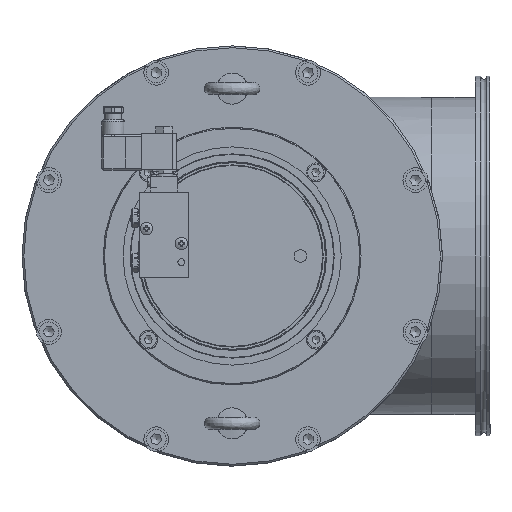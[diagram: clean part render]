
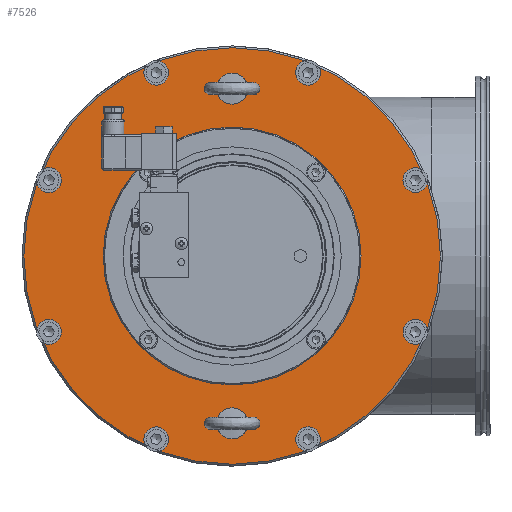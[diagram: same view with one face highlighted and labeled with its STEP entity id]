
A CAD part, left-side view. The second image highlights one B-rep face of the part: STEP entity #7526.
In plain terms, the highlighted planar face has unit normal (-1, 0, 0) as drawn and (0, 0, -1) by its records, which use the part's own axes.
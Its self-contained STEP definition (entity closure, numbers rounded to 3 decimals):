
#6881=PLANE('',#15669);
#7526=ADVANCED_FACE('BCT_REF_50658',(#8370,#8371,#8372,#8373,#8374,#8375,
#8376,#8377,#8378,#8379,#8380,#8381,#8382,#8383,#8384,#8385),#6881,.F.);
#8370=FACE_BOUND('',#9067,.T.);
#8371=FACE_BOUND('',#9068,.T.);
#8372=FACE_BOUND('',#9069,.T.);
#8373=FACE_BOUND('',#9070,.T.);
#8374=FACE_BOUND('',#9071,.T.);
#8375=FACE_BOUND('',#9072,.T.);
#8376=FACE_BOUND('',#9073,.T.);
#8377=FACE_BOUND('',#9074,.T.);
#8378=FACE_BOUND('',#9075,.T.);
#8379=FACE_BOUND('',#9076,.T.);
#8380=FACE_BOUND('',#9077,.T.);
#8381=FACE_BOUND('',#9078,.T.);
#8382=FACE_BOUND('',#9079,.T.);
#8383=FACE_BOUND('',#9080,.T.);
#8384=FACE_BOUND('',#9081,.T.);
#8385=FACE_BOUND('',#9082,.T.);
#9067=EDGE_LOOP('',(#10228));
#9068=EDGE_LOOP('',(#10229));
#9069=EDGE_LOOP('',(#10230));
#9070=EDGE_LOOP('',(#10231));
#9071=EDGE_LOOP('',(#10232));
#9072=EDGE_LOOP('',(#10233));
#9073=EDGE_LOOP('',(#10234));
#9074=EDGE_LOOP('',(#10235));
#9075=EDGE_LOOP('',(#10236));
#9076=EDGE_LOOP('',(#10237));
#9077=EDGE_LOOP('',(#10238));
#9078=EDGE_LOOP('',(#10239));
#9079=EDGE_LOOP('',(#10240));
#9080=EDGE_LOOP('',(#10241));
#9081=EDGE_LOOP('',(#10242));
#9082=EDGE_LOOP('',(#10243));
#10228=ORIENTED_EDGE('',*,*,#13754,.T.);
#10229=ORIENTED_EDGE('',*,*,#13755,.T.);
#10230=ORIENTED_EDGE('',*,*,#13756,.T.);
#10231=ORIENTED_EDGE('',*,*,#13757,.T.);
#10232=ORIENTED_EDGE('',*,*,#13758,.T.);
#10233=ORIENTED_EDGE('',*,*,#13759,.T.);
#10234=ORIENTED_EDGE('',*,*,#13760,.T.);
#10235=ORIENTED_EDGE('',*,*,#13761,.T.);
#10236=ORIENTED_EDGE('',*,*,#13762,.T.);
#10237=ORIENTED_EDGE('',*,*,#13763,.T.);
#10238=ORIENTED_EDGE('',*,*,#13764,.T.);
#10239=ORIENTED_EDGE('',*,*,#13765,.T.);
#10240=ORIENTED_EDGE('',*,*,#13766,.T.);
#10241=ORIENTED_EDGE('',*,*,#13767,.T.);
#10242=ORIENTED_EDGE('',*,*,#13768,.T.);
#10243=ORIENTED_EDGE('',*,*,#13769,.T.);
#12744=VERTEX_POINT('',#21227);
#12745=VERTEX_POINT('',#21229);
#12746=VERTEX_POINT('',#21231);
#12747=VERTEX_POINT('',#21233);
#12748=VERTEX_POINT('',#21235);
#12749=VERTEX_POINT('',#21237);
#12750=VERTEX_POINT('',#21239);
#12751=VERTEX_POINT('',#21241);
#12752=VERTEX_POINT('',#21243);
#12753=VERTEX_POINT('',#21245);
#12754=VERTEX_POINT('',#21247);
#12755=VERTEX_POINT('',#21249);
#12756=VERTEX_POINT('',#21251);
#12757=VERTEX_POINT('',#21253);
#12758=VERTEX_POINT('',#21255);
#12759=VERTEX_POINT('',#21257);
#13754=EDGE_CURVE('BCT_REF_75933',#12744,#12744,#15048,.T.);
#13755=EDGE_CURVE('BCT_REF_50675',#12745,#12745,#15049,.T.);
#13756=EDGE_CURVE('BCT_REF_50672',#12746,#12746,#15050,.T.);
#13757=EDGE_CURVE('BCT_REF_50642',#12747,#12747,#15051,.T.);
#13758=EDGE_CURVE('',#12748,#12748,#15052,.T.);
#13759=EDGE_CURVE('BCT_REF_50687',#12749,#12749,#15053,.T.);
#13760=EDGE_CURVE('',#12750,#12750,#15054,.T.);
#13761=EDGE_CURVE('',#12751,#12751,#15055,.T.);
#13762=EDGE_CURVE('',#12752,#12752,#15056,.T.);
#13763=EDGE_CURVE('',#12753,#12753,#15057,.T.);
#13764=EDGE_CURVE('',#12754,#12754,#15058,.T.);
#13765=EDGE_CURVE('',#12755,#12755,#15059,.T.);
#13766=EDGE_CURVE('',#12756,#12756,#15060,.T.);
#13767=EDGE_CURVE('',#12757,#12757,#15061,.T.);
#13768=EDGE_CURVE('',#12758,#12758,#15062,.T.);
#13769=EDGE_CURVE('',#12759,#12759,#15063,.T.);
#15048=CIRCLE('',#15653,168.);
#15049=CIRCLE('',#15654,88.75);
#15050=CIRCLE('',#15655,4.25);
#15051=CIRCLE('',#15656,4.25);
#15052=CIRCLE('',#15657,4.25);
#15053=CIRCLE('',#15658,4.25);
#15054=CIRCLE('',#15659,4.25);
#15055=CIRCLE('',#15660,4.25);
#15056=CIRCLE('',#15661,5.5);
#15057=CIRCLE('',#15662,5.5);
#15058=CIRCLE('',#15663,5.5);
#15059=CIRCLE('',#15664,5.5);
#15060=CIRCLE('',#15665,5.5);
#15061=CIRCLE('',#15666,5.5);
#15062=CIRCLE('',#15667,5.5);
#15063=CIRCLE('',#15668,5.5);
#15653=AXIS2_PLACEMENT_3D('',#21226,#17129,#17130);
#15654=AXIS2_PLACEMENT_3D('',#21228,#17131,#17132);
#15655=AXIS2_PLACEMENT_3D('',#21230,#17133,#17134);
#15656=AXIS2_PLACEMENT_3D('',#21232,#17135,#17136);
#15657=AXIS2_PLACEMENT_3D('',#21234,#17137,#17138);
#15658=AXIS2_PLACEMENT_3D('',#21236,#17139,#17140);
#15659=AXIS2_PLACEMENT_3D('',#21238,#17141,#17142);
#15660=AXIS2_PLACEMENT_3D('',#21240,#17143,#17144);
#15661=AXIS2_PLACEMENT_3D('',#21242,#17145,#17146);
#15662=AXIS2_PLACEMENT_3D('',#21244,#17147,#17148);
#15663=AXIS2_PLACEMENT_3D('',#21246,#17149,#17150);
#15664=AXIS2_PLACEMENT_3D('',#21248,#17151,#17152);
#15665=AXIS2_PLACEMENT_3D('',#21250,#17153,#17154);
#15666=AXIS2_PLACEMENT_3D('',#21252,#17155,#17156);
#15667=AXIS2_PLACEMENT_3D('',#21254,#17157,#17158);
#15668=AXIS2_PLACEMENT_3D('',#21256,#17159,#17160);
#15669=AXIS2_PLACEMENT_3D('',#21258,#17161,#17162);
#17129=DIRECTION('',(0.,0.,-1.));
#17130=DIRECTION('',(1.,0.,0.));
#17131=DIRECTION('',(0.,0.,1.));
#17132=DIRECTION('',(1.,0.,0.));
#17133=DIRECTION('',(0.,0.,1.));
#17134=DIRECTION('',(1.,0.,0.));
#17135=DIRECTION('',(0.,0.,1.));
#17136=DIRECTION('',(1.,0.,0.));
#17137=DIRECTION('',(0.,0.,1.));
#17138=DIRECTION('',(0.,-1.,0.));
#17139=DIRECTION('',(0.,0.,1.));
#17140=DIRECTION('',(-1.,0.,0.));
#17141=DIRECTION('',(0.,0.,1.));
#17142=DIRECTION('',(0.,1.,0.));
#17143=DIRECTION('',(0.,0.,1.));
#17144=DIRECTION('',(1.,0.,0.));
#17145=DIRECTION('',(0.,0.,1.));
#17146=DIRECTION('',(0.707,-0.707,0.));
#17147=DIRECTION('',(0.,0.,1.));
#17148=DIRECTION('',(0.,-1.,0.));
#17149=DIRECTION('',(0.,0.,1.));
#17150=DIRECTION('',(-0.707,-0.707,0.));
#17151=DIRECTION('',(0.,0.,1.));
#17152=DIRECTION('',(-1.,0.,0.));
#17153=DIRECTION('',(0.,0.,1.));
#17154=DIRECTION('',(-0.707,0.707,0.));
#17155=DIRECTION('',(0.,0.,1.));
#17156=DIRECTION('',(0.,1.,0.));
#17157=DIRECTION('',(0.,0.,1.));
#17158=DIRECTION('',(0.707,0.707,0.));
#17159=DIRECTION('',(0.,0.,1.));
#17160=DIRECTION('',(1.,0.,0.));
#17161=DIRECTION('',(0.,0.,1.));
#17162=DIRECTION('',(1.,0.,0.));
#21226=CARTESIAN_POINT('',(0.,0.,0.));
#21227=CARTESIAN_POINT('',(168.,0.,0.));
#21228=CARTESIAN_POINT('',(0.,0.,0.));
#21229=CARTESIAN_POINT('',(88.75,0.,0.));
#21230=CARTESIAN_POINT('',(0.,135.,0.));
#21231=CARTESIAN_POINT('',(4.25,135.,0.));
#21232=CARTESIAN_POINT('',(0.,-135.,0.));
#21233=CARTESIAN_POINT('',(4.25,-135.,0.));
#21234=CARTESIAN_POINT('',(-67.529,-67.529,0.));
#21235=CARTESIAN_POINT('',(-67.529,-71.779,0.));
#21236=CARTESIAN_POINT('',(-67.529,67.529,0.));
#21237=CARTESIAN_POINT('',(-71.779,67.529,0.));
#21238=CARTESIAN_POINT('',(67.529,67.529,0.));
#21239=CARTESIAN_POINT('',(67.529,71.779,0.));
#21240=CARTESIAN_POINT('',(67.529,-67.529,0.));
#21241=CARTESIAN_POINT('',(71.779,-67.529,0.));
#21242=CARTESIAN_POINT('',(61.229,-147.821,0.));
#21243=CARTESIAN_POINT('',(65.118,-151.71,0.));
#21244=CARTESIAN_POINT('',(-61.229,-147.821,0.));
#21245=CARTESIAN_POINT('',(-61.229,-153.321,0.));
#21246=CARTESIAN_POINT('',(-147.821,-61.229,0.));
#21247=CARTESIAN_POINT('',(-151.71,-65.118,0.));
#21248=CARTESIAN_POINT('',(-147.821,61.229,0.));
#21249=CARTESIAN_POINT('',(-153.321,61.229,0.));
#21250=CARTESIAN_POINT('',(-61.229,147.821,0.));
#21251=CARTESIAN_POINT('',(-65.118,151.71,0.));
#21252=CARTESIAN_POINT('',(61.229,147.821,0.));
#21253=CARTESIAN_POINT('',(61.229,153.321,0.));
#21254=CARTESIAN_POINT('',(147.821,61.229,0.));
#21255=CARTESIAN_POINT('',(151.71,65.118,0.));
#21256=CARTESIAN_POINT('',(147.821,-61.229,0.));
#21257=CARTESIAN_POINT('',(153.321,-61.229,0.));
#21258=CARTESIAN_POINT('',(169.5,0.,0.));
